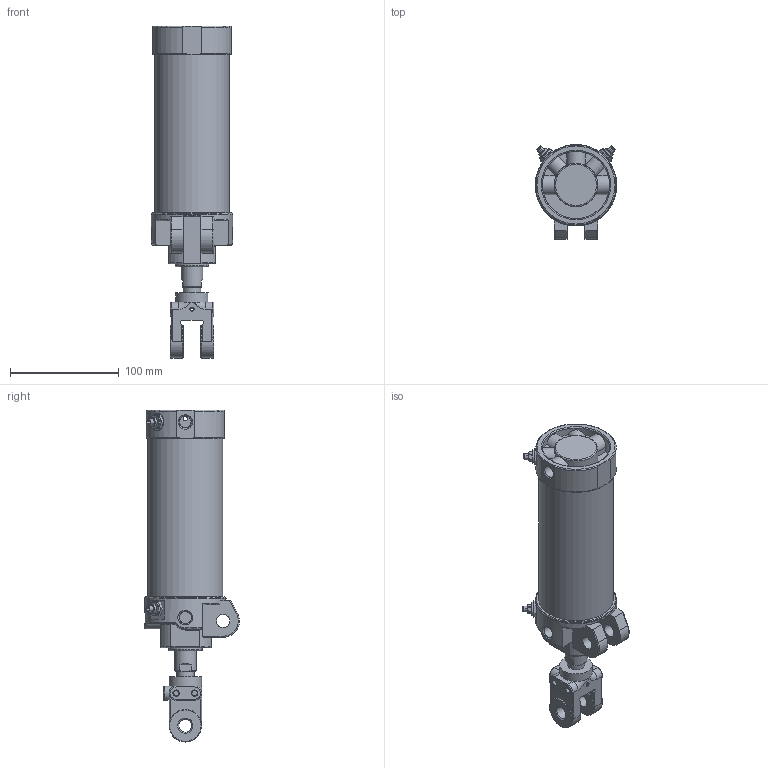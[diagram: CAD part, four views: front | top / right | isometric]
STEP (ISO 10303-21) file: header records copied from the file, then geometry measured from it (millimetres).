
FILE_DESCRIPTION((''),'2;1');
FILE_NAME('I:\3D電子目錄\氣缸\DCK\DCK\DCK-1A-63x100-Y.stp','2008-02-26T15:34:52',('Administrator'),(''),'Autodesk Inventor 11','Autodesk Inventor 11','');
FILE_SCHEMA(('AUTOMOTIVE_DESIGN { 1 0 10303 214 1 1 1 1 }'));
Length unit declared in the file: millimetre
Products named in the file (6): DCK-1A-63-Y; 緩衝針; 緩衝針-1; 緩衝針-201; 緩衝針-3
Assembly tree (8 placements, depth 3):
  DCK-1A-63-Y
    DCK-1A-63-Y
    緩衝針  x4
      緩衝針-1
      緩衝針-201
      緩衝針-3
Bounding box: 75 x 87.29 x 306 mm (x, y, z)
Volume: 382125 mm3; surface area: 146922.1 mm2
Topology: 16 solids, 16 shells, 674 faces, 1501 edges, 931 vertices
Faces by surface type: plane 246, cylinder 189, cone 145, torus 48, bspline 46
Full cylindrical faces by diameter (mm): 2 x1, 3 x2, 3.8 x2, 4 x6, 4.6 x4, 4.917 x2, 5 x8, 5.1 x4, 5.2 x12, 5.5 x4, 7 x1, 7.25 x1, 7.9 x4, 8 x2, 11.3 x3, 12 x4, 12.8 x4, 16 x3, 20 x1, 21 x1, 22 x2, 23 x1, 24.7 x1, 26 x1, 27 x1, 28 x1, 29 x1, 30 x3, 31 x1, 33 x1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
Entity records: 15192 total; most frequent: CARTESIAN_POINT 6245, DIRECTION 1818, ORIENTED_EDGE 1644, EDGE_CURVE 822, AXIS2_PLACEMENT_3D 781, EDGE_LOOP 636, VERTEX_POINT 590, FACE_OUTER_BOUND 425
